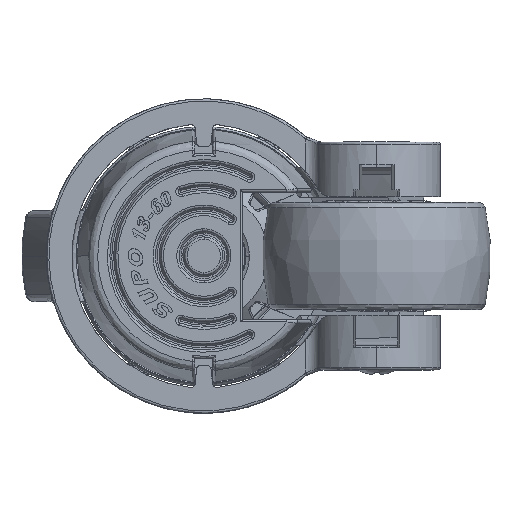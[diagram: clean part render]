
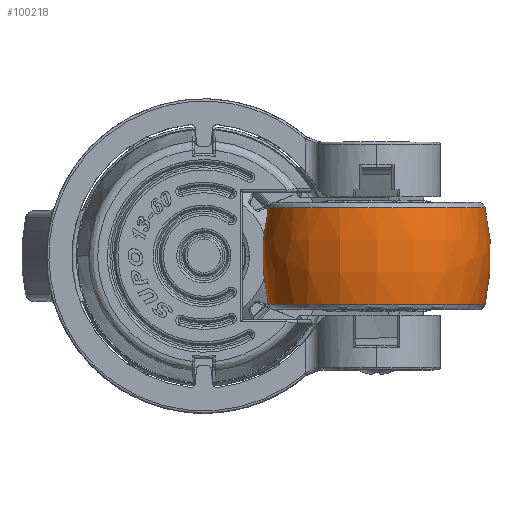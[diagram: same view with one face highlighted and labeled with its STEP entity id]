
A CAD part, top view. The second image highlights one B-rep face of the part: STEP entity #100218.
In plain terms, the highlighted free-form (B-spline) face has degree [3, 3] with [4, 4] control points.
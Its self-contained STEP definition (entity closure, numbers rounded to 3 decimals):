
#871 = DIRECTION ( 'NONE',  ( -1., 0., -0.006 ) ) ;
#1453 = DIRECTION ( 'NONE',  ( 0., 1., 0. ) ) ;
#3407 = VERTEX_POINT ( 'NONE', #101661 ) ;
#3763 = DIRECTION ( 'NONE',  ( 0., 1., 0. ) ) ;
#4269 = DIRECTION ( 'NONE',  ( 0., -1., 0. ) ) ;
#4957 = ORIENTED_EDGE ( 'NONE', *, *, #108050, .T. ) ;
#5054 = CARTESIAN_POINT ( 'NONE',  ( 12.513, 3.592, 50.95 ) ) ;
#5425 = CARTESIAN_POINT ( 'NONE',  ( 37.925, 10.59, 50.95 ) ) ;
#7541 = CARTESIAN_POINT ( 'NONE',  ( 61.71, 10.59, 50.95 ) ) ;
#8072 = CARTESIAN_POINT ( 'NONE',  ( 12.513, -3.592, 101.774 ) ) ;
#8144 = CARTESIAN_POINT ( 'NONE',  ( 61.71, 10.59, 51.101 ) ) ;
#8514 = CARTESIAN_POINT ( 'NONE',  ( 61.71, -10.59, 51.101 ) ) ;
#9164 = EDGE_CURVE ( 'NONE', #50285, #80438, #69757, .T. ) ;
#14272 = EDGE_LOOP ( 'NONE', ( #84926, #4957, #23043, #87403, #34918, #64673 ) ) ;
#23043 = ORIENTED_EDGE ( 'NONE', *, *, #82978, .T. ) ;
#23967 = EDGE_CURVE ( 'NONE', #52951, #50285, #91257, .T. ) ;
#25096 = CARTESIAN_POINT ( 'NONE',  ( 61.71, -10.59, 50.95 ) ) ;
#34437 = CARTESIAN_POINT ( 'NONE',  ( 63.337, -3.592, 101.774 ) ) ;
#34918 = ORIENTED_EDGE ( 'NONE', *, *, #9164, .T. ) ;
#35067 = VERTEX_POINT ( 'NONE', #8144 ) ;
#35499 =( BOUNDED_SURFACE ( )  B_SPLINE_SURFACE ( 3, 3, ( 
 ( #114354, #87953, #98458, #35616 ),
 ( #52628, #79135, #89654, #107254 ),
 ( #88480, #34437, #8072, #79706 ),
 ( #25096, #96749, #60301, #60885 ) ),
 .UNSPECIFIED., .F., .F., .F. ) 
 B_SPLINE_SURFACE_WITH_KNOTS ( ( 4, 4 ),
 ( 4, 4 ),
 ( 0.019, 0.981 ),
 ( 0., 1. ),
 .UNSPECIFIED. ) 
 GEOMETRIC_REPRESENTATION_ITEM ( )  RATIONAL_B_SPLINE_SURFACE ( (
 ( 0.999, 0.333, 0.333, 0.999),
 ( 0.982, 0.327, 0.327, 0.982),
 ( 0.982, 0.327, 0.327, 0.982),
 ( 0.999, 0.333, 0.333, 0.999) ) ) 
 REPRESENTATION_ITEM ( '' )  SURFACE ( )  );
#35616 = CARTESIAN_POINT ( 'NONE',  ( 14.14, 10.59, 50.95 ) ) ;
#36204 = CARTESIAN_POINT ( 'NONE',  ( 61.71, -10.59, 50.95 ) ) ;
#37739 = CARTESIAN_POINT ( 'NONE',  ( 37.925, -10.59, 50.95 ) ) ;
#38369 = EDGE_CURVE ( 'NONE', #80438, #3407, #60608, .T. ) ;
#39913 = AXIS2_PLACEMENT_3D ( 'NONE', #95378, #58338, #76621 ) ;
#40605 = EDGE_CURVE ( 'NONE', #53327, #3407, #44199, .T. ) ;
#43943 = CARTESIAN_POINT ( 'NONE',  ( 14.14, 10.59, 50.95 ) ) ;
#44199 =( BOUNDED_CURVE ( )  B_SPLINE_CURVE ( 3, ( #7541, #70923, #106747, #36204 ),
 .UNSPECIFIED., .F., .F. ) 
 B_SPLINE_CURVE_WITH_KNOTS ( ( 4, 4 ),
 ( 0.019, 0.981 ),
 .UNSPECIFIED. ) 
 CURVE ( )  GEOMETRIC_REPRESENTATION_ITEM ( )  RATIONAL_B_SPLINE_CURVE ( ( 0.999, 0.982, 0.982, 0.999 ) ) 
 REPRESENTATION_ITEM ( '' )  );
#49930 = AXIS2_PLACEMENT_3D ( 'NONE', #5425, #4269, #67077 ) ;
#50285 = VERTEX_POINT ( 'NONE', #103817 ) ;
#50749 = CARTESIAN_POINT ( 'NONE',  ( 12.513, -3.592, 50.95 ) ) ;
#52628 = CARTESIAN_POINT ( 'NONE',  ( 63.337, 3.592, 50.95 ) ) ;
#52951 = VERTEX_POINT ( 'NONE', #43943 ) ;
#53327 = VERTEX_POINT ( 'NONE', #104399 ) ;
#55380 = CARTESIAN_POINT ( 'NONE',  ( 37.925, -10.59, 50.95 ) ) ;
#58338 = DIRECTION ( 'NONE',  ( 0., -1., 0. ) ) ;
#60301 = CARTESIAN_POINT ( 'NONE',  ( 14.14, -10.59, 98.521 ) ) ;
#60608 = CIRCLE ( 'NONE', #113209, 23.785 ) ;
#60885 = CARTESIAN_POINT ( 'NONE',  ( 14.14, -10.59, 50.95 ) ) ;
#64673 = ORIENTED_EDGE ( 'NONE', *, *, #38369, .T. ) ;
#66083 = AXIS2_PLACEMENT_3D ( 'NONE', #55380, #1453, #871 ) ;
#67077 = DIRECTION ( 'NONE',  ( -1., 0., -0.006 ) ) ;
#69757 = CIRCLE ( 'NONE', #66083, 23.785 ) ;
#70923 = CARTESIAN_POINT ( 'NONE',  ( 63.337, 3.592, 50.95 ) ) ;
#71947 = CIRCLE ( 'NONE', #39913, 23.785 ) ;
#74386 = CIRCLE ( 'NONE', #49930, 23.785 ) ;
#76076 = CARTESIAN_POINT ( 'NONE',  ( 14.14, 10.59, 50.95 ) ) ;
#76621 = DIRECTION ( 'NONE',  ( -1., 0., -0.006 ) ) ;
#79135 = CARTESIAN_POINT ( 'NONE',  ( 63.337, 3.592, 101.774 ) ) ;
#79706 = CARTESIAN_POINT ( 'NONE',  ( 12.513, -3.592, 50.95 ) ) ;
#80438 = VERTEX_POINT ( 'NONE', #8514 ) ;
#82978 = EDGE_CURVE ( 'NONE', #35067, #52951, #74386, .T. ) ;
#84704 = DIRECTION ( 'NONE',  ( -1., 0., -0.006 ) ) ;
#84926 = ORIENTED_EDGE ( 'NONE', *, *, #40605, .F. ) ;
#87403 = ORIENTED_EDGE ( 'NONE', *, *, #23967, .T. ) ;
#87953 = CARTESIAN_POINT ( 'NONE',  ( 61.71, 10.59, 98.521 ) ) ;
#88480 = CARTESIAN_POINT ( 'NONE',  ( 63.337, -3.592, 50.95 ) ) ;
#89654 = CARTESIAN_POINT ( 'NONE',  ( 12.513, 3.592, 101.774 ) ) ;
#91257 =( BOUNDED_CURVE ( )  B_SPLINE_CURVE ( 3, ( #76076, #5054, #50749, #95978 ),
 .UNSPECIFIED., .F., .F. ) 
 B_SPLINE_CURVE_WITH_KNOTS ( ( 4, 4 ),
 ( 0.019, 0.981 ),
 .UNSPECIFIED. ) 
 CURVE ( )  GEOMETRIC_REPRESENTATION_ITEM ( )  RATIONAL_B_SPLINE_CURVE ( ( 0.999, 0.982, 0.982, 0.999 ) ) 
 REPRESENTATION_ITEM ( '' )  );
#95378 = CARTESIAN_POINT ( 'NONE',  ( 37.925, 10.59, 50.95 ) ) ;
#95978 = CARTESIAN_POINT ( 'NONE',  ( 14.14, -10.59, 50.95 ) ) ;
#96749 = CARTESIAN_POINT ( 'NONE',  ( 61.71, -10.59, 98.521 ) ) ;
#98458 = CARTESIAN_POINT ( 'NONE',  ( 14.14, 10.59, 98.521 ) ) ;
#100218 = ADVANCED_FACE ( 'NONE', ( #114915 ), #35499, .F. ) ;
#101661 = CARTESIAN_POINT ( 'NONE',  ( 61.71, -10.59, 50.95 ) ) ;
#103817 = CARTESIAN_POINT ( 'NONE',  ( 14.14, -10.59, 50.95 ) ) ;
#104399 = CARTESIAN_POINT ( 'NONE',  ( 61.71, 10.59, 50.95 ) ) ;
#106747 = CARTESIAN_POINT ( 'NONE',  ( 63.337, -3.592, 50.95 ) ) ;
#107254 = CARTESIAN_POINT ( 'NONE',  ( 12.513, 3.592, 50.95 ) ) ;
#108050 = EDGE_CURVE ( 'NONE', #53327, #35067, #71947, .T. ) ;
#113209 = AXIS2_PLACEMENT_3D ( 'NONE', #37739, #3763, #84704 ) ;
#114354 = CARTESIAN_POINT ( 'NONE',  ( 61.71, 10.59, 50.95 ) ) ;
#114915 = FACE_OUTER_BOUND ( 'NONE', #14272, .T. ) ;
